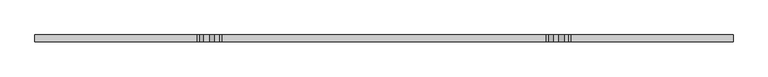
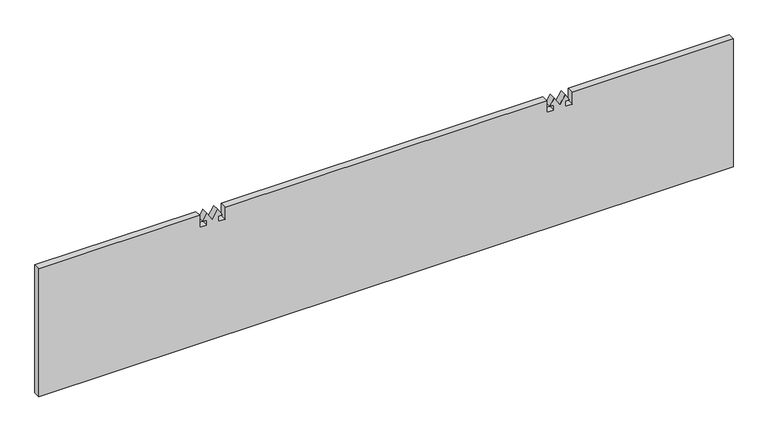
"""IFC4 building model written with IfcOpenShell, lengths in millimetres: proxy geometry, instalación_stratus 3.3dm."""

from ifc_helpers import new_model, si_unit, frame, origin, place, context, project, spatial, polyline, outline, extrude, source, transform, mapped, element, save


def generic_models_45efb97e(model_context):
    return source(origin(), model_context, "Body", "SweptSolid", [
        extrude(outline(polyline([(-42.5638653, 291.811158), (-42.5638653, 279.553481), (-20.65, 279.553481), (-20.65, 0.0), (-255.6, 0.0), (-255.6, 1206.5), (-20.65, 1206.5), (-20.65, 926.946519), (-42.5638653, 926.946519), (-42.5638653, 914.688842), (-33.2622966, 914.688842), (-33.2622966, 922.0592541), (-20.65, 914.42236), (-36.4174225, 904.875), (-20.65, 895.32764), (-33.2622966, 887.6907459), (-33.2622966, 895.061158), (-42.5638653, 895.061158), (-42.5638653, 882.803481), (-20.65, 882.803481), (-20.65, 323.696519), (-42.5638653, 323.696519), (-42.5638653, 311.438842), (-33.2622966, 311.438842), (-33.2622966, 318.8092541), (-20.65, 311.17236), (-36.4174225, 301.625), (-20.65, 292.07764), (-33.2622966, 284.4407459), (-33.2622966, 291.811158), (-42.5638653, 291.811158)])), frame((0.0, 326.4710804, 0.0), z_axis=(0.0, 1.0, 0.0), x_axis=(0.0, 0.0, 1.0)), (0.0, 0.0, 1.0), 12.0),
    ])


if __name__ == "__main__":
    model = new_model("IFC4")
    model_context = context("Model", 3, world=origin())
    ifc_project = project(units=[si_unit("LENGTHUNIT", "METRE", prefix="MILLI")], contexts=[model_context])
    site = spatial("IfcSite", under=ifc_project)
    building = spatial("IfcBuilding", under=site)
    placement = place(None, origin())
    generic_models_shape = generic_models_45efb97e(model_context)
    element("IfcBuildingElementProxy", 1, Name="instalación_stratus 3.3dm", ObjectType="instalación_stratus 3.3dm", at=placement, inside=building, context=model_context, shape_type="MappedRepresentation", body=[
        mapped(generic_models_shape, transform((0.0, 0.0, 0.0), x_axis=(1.0, 0.0, 0.0), y_axis=(0.0, 1.0, 0.0), z_axis=(0.0, 0.0, 1.0))),
    ])
    save(model, "model.ifc")
